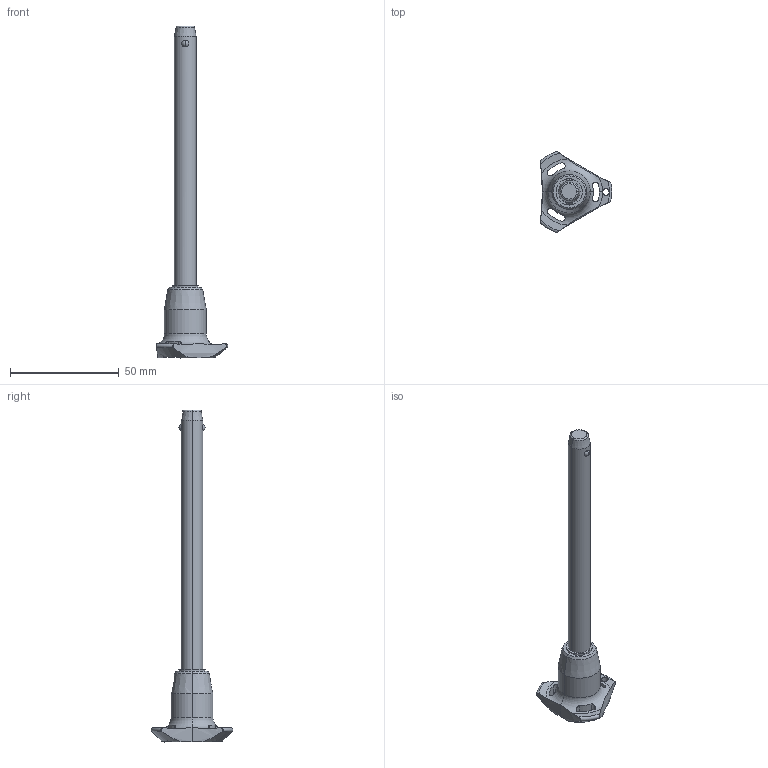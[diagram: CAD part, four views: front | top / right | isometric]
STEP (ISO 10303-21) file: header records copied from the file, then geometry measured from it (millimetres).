
FILE_DESCRIPTION (( 'STEP AP203' ), '1' );
FILE_NAME ('QR1704.M10-110-S.step', '2025-11-12T09:22:21', ( '' ), ( '' ), 'SwSTEP 2.0', 'SolidWorks 2019', '' );
FILE_SCHEMA (( 'CONFIG_CONTROL_DESIGN' ));
Length unit declared in the file: millimetre
Products named in the file (1): QR1704.M10-110-S
Bounding box: 33 x 37.51 x 152.9 mm (x, y, z)
Volume: 19719.3 mm3; surface area: 7620.2 mm2
Topology: 1 solids, 1 shells, 65 faces, 174 edges, 109 vertices
Faces by surface type: cylinder 30, cone 14, torus 11, sphere 6, plane 4
Entity records: 2758 total; most frequent: CARTESIAN_POINT 1085, ORIENTED_EDGE 348, DIRECTION 331, EDGE_CURVE 174, AXIS2_PLACEMENT_3D 147, VERTEX_POINT 109, CIRCLE 81, EDGE_LOOP 71
